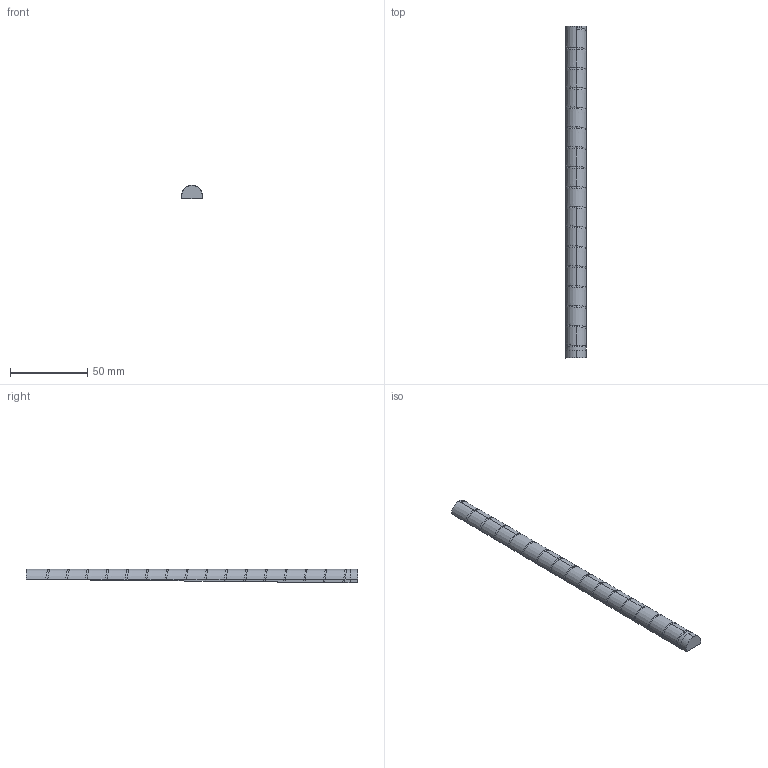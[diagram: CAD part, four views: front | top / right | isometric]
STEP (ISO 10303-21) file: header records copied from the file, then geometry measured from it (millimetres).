
FILE_DESCRIPTION(/* description */ (''),/* implementation_level */ '2;1');
FILE_NAME(/* name */ 'C:\Users\johne\Desktop\AR15 Mag Spring Bending Jig\Side section 2.stp',/* time_stamp */ '2018-12-05T17:40:44-06:00',/* author */ ('johne'),/* organization */ (''),/* preprocessor_version */ 'ST-DEVELOPER v16.13',/* originating_system */ 'Autodesk Inventor 2018',/* authorisation */ '');
FILE_SCHEMA (('AUTOMOTIVE_DESIGN { 1 0 10303 214 3 1 1 }'));
Length unit declared in the file: millimetre
Products named in the file (1): Side section 2
Bounding box: 13.53 x 214.55 x 8.86 mm (x, y, z)
Volume: 17521.8 mm3; surface area: 7945.8 mm2
Topology: 1 solids, 1 shells, 158 faces, 448 edges, 292 vertices
Faces by surface type: bspline 66, plane 56, cone 34, cylinder 2
Entity records: 8697 total; most frequent: CARTESIAN_POINT 4817, ORIENTED_EDGE 896, DIRECTION 717, EDGE_CURVE 448, VERTEX_POINT 292, AXIS2_PLACEMENT_3D 247, LINE 223, VECTOR 223
